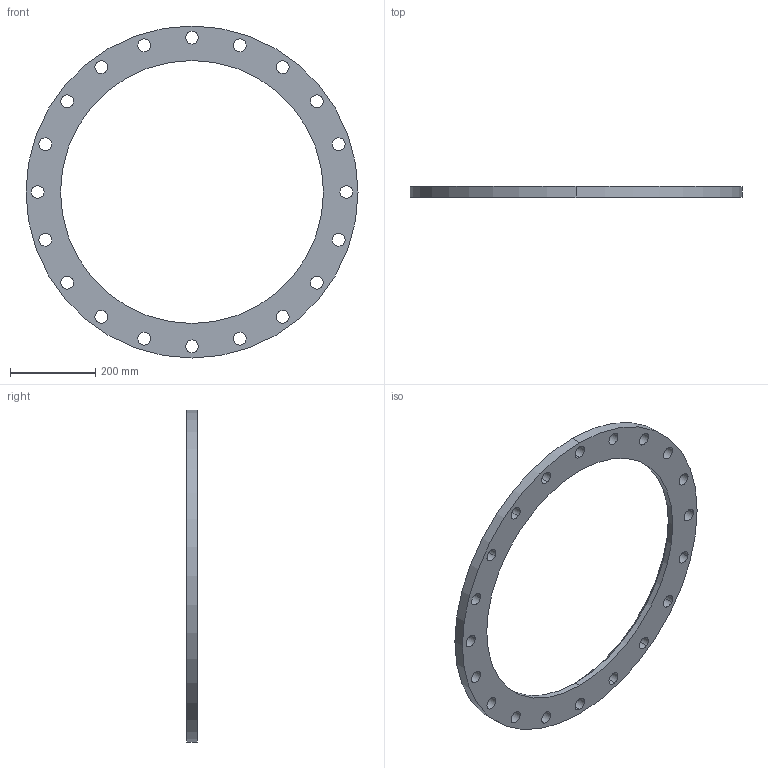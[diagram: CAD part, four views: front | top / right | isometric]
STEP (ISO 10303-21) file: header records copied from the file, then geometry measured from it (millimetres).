
FILE_DESCRIPTION (( 'STEP AP203' ), '1' );
FILE_NAME ('3D_R185_PN10_DN600_176641270_176642270.STEP', '2024-07-10T07:26:59', ( '' ), ( '' ), 'SwSTEP 2.0', 'SolidWorks 2024', '' );
FILE_SCHEMA (( 'CONFIG_CONTROL_DESIGN' ));
Length unit declared in the file: millimetre
Products named in the file (1): 3D_R185_PN10_DN600_176641270_176642270
Bounding box: 780 x 25 x 780 mm (x, y, z)
Volume: 3985179 mm3; surface area: 472597.6 mm2
Topology: 1 solids, 1 shells, 48 faces, 136 edges, 90 vertices
Faces by surface type: cylinder 44, cone 2, plane 2
Entity records: 1775 total; most frequent: DIRECTION 324, CARTESIAN_POINT 275, ORIENTED_EDGE 272, AXIS2_PLACEMENT_3D 139, EDGE_CURVE 136, CIRCLE 90, VERTEX_POINT 90, EDGE_LOOP 90
